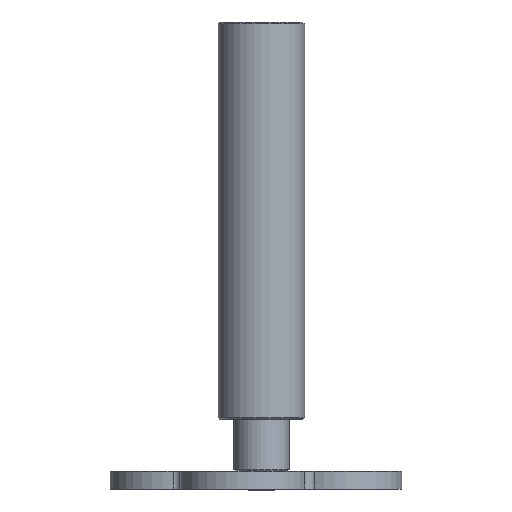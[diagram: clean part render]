
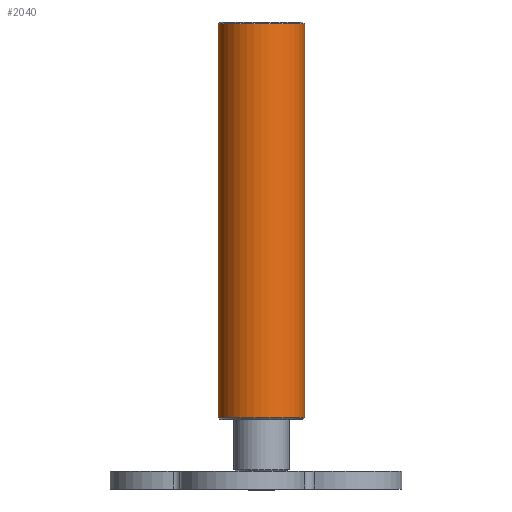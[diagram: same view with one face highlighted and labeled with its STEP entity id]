
A CAD part, front view. The second image highlights one B-rep face of the part: STEP entity #2040.
In plain terms, the highlighted cylindrical face has radius 12.5 mm (diameter 25 mm), a partial arc.
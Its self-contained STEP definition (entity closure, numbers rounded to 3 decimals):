
#594=CARTESIAN_POINT('',(-1.552,39.105,35.5));
#595=DIRECTION('',(0.,0.,-1.));
#596=DIRECTION('',(1.,0.,0.));
#597=AXIS2_PLACEMENT_3D('',#594,#595,#596);
#608=DIRECTION('',(0.,0.,1.));
#609=VECTOR('',#608,114.);
#610=CARTESIAN_POINT('',(10.948,39.105,35.5));
#611=LINE('',#610,#609);
#612=DIRECTION('',(0.,0.,-1.));
#613=VECTOR('',#612,114.);
#614=CARTESIAN_POINT('',(-14.052,39.105,149.5));
#615=LINE('',#614,#613);
#620=CARTESIAN_POINT('',(-1.552,39.105,149.5));
#621=DIRECTION('',(0.,0.,1.));
#622=DIRECTION('',(-1.,0.,0.));
#623=AXIS2_PLACEMENT_3D('',#620,#621,#622);
#704=CARTESIAN_POINT('',(10.948,39.105,35.5));
#706=VERTEX_POINT('',#704);
#718=CARTESIAN_POINT('',(-14.052,39.105,35.5));
#719=VERTEX_POINT('',#718);
#724=CARTESIAN_POINT('',(10.948,39.105,149.5));
#725=VERTEX_POINT('',#724);
#726=CARTESIAN_POINT('',(-14.052,39.105,149.5));
#727=VERTEX_POINT('',#726);
#2028=CARTESIAN_POINT('',(-1.552,39.105,45.));
#2029=DIRECTION('',(0.,0.,1.));
#2030=DIRECTION('',(1.,0.,0.));
#2031=AXIS2_PLACEMENT_3D('',#2028,#2029,#2030);
#2032=CYLINDRICAL_SURFACE('',#2031,12.5);
#2033=ORIENTED_EDGE('',*,*,#2015,.F.);
#2035=ORIENTED_EDGE('',*,*,#2034,.T.);
#2036=ORIENTED_EDGE('',*,*,#2011,.F.);
#2037=ORIENTED_EDGE('',*,*,#1971,.T.);
#2038=EDGE_LOOP('',(#2033,#2035,#2036,#2037));
#2039=FACE_OUTER_BOUND('',#2038,.F.);
#598=CIRCLE('',#597,12.5);
#624=CIRCLE('',#623,12.5);
#1971=EDGE_CURVE('',#706,#719,#598,.T.);
#2011=EDGE_CURVE('',#706,#725,#611,.T.);
#2015=EDGE_CURVE('',#727,#719,#615,.T.);
#2034=EDGE_CURVE('',#727,#725,#624,.T.);
#2040=ADVANCED_FACE('',(#2039),#2032,.T.);
